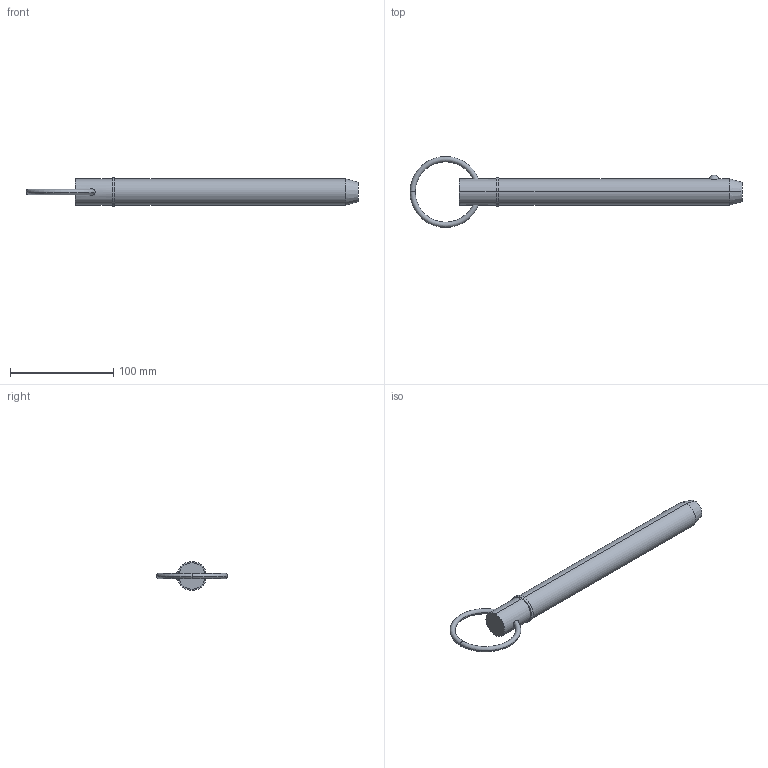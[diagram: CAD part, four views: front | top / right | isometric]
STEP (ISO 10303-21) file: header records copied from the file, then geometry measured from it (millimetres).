
FILE_DESCRIPTION (( 'STEP AP203' ), '1' );
FILE_NAME ('33016.W1080.step', '2024-11-07T11:19:34', ( '' ), ( '' ), 'SwSTEP 2.0', 'SolidWorks 2019', '' );
FILE_SCHEMA (( 'CONFIG_CONTROL_DESIGN' ));
Length unit declared in the file: millimetre
Products named in the file (3): Part2_33016.W1080; Part1_33016.W1080; 33016.W1080
Assembly tree (2 placements, depth 2):
  33016.W1080
    Part1_33016.W1080
    Part2_33016.W1080
Bounding box: 320.82 x 68.58 x 27.94 mm (x, y, z)
Volume: 140634.1 mm3; surface area: 26401.1 mm2
Topology: 2 solids, 2 shells, 22 faces, 43 edges, 26 vertices
Faces by surface type: torus 8, cylinder 6, plane 4, sphere 2, cone 2
Entity records: 1075 total; most frequent: CARTESIAN_POINT 298, DIRECTION 120, ORIENTED_EDGE 86, AXIS2_PLACEMENT_3D 56, EDGE_CURVE 43, CIRCLE 29, EDGE_LOOP 27, VERTEX_POINT 26
